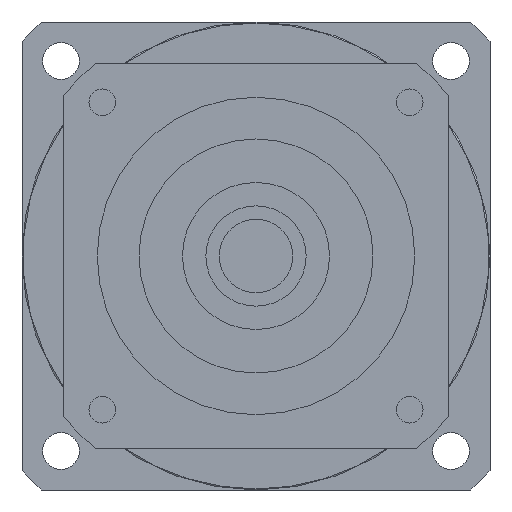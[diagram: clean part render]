
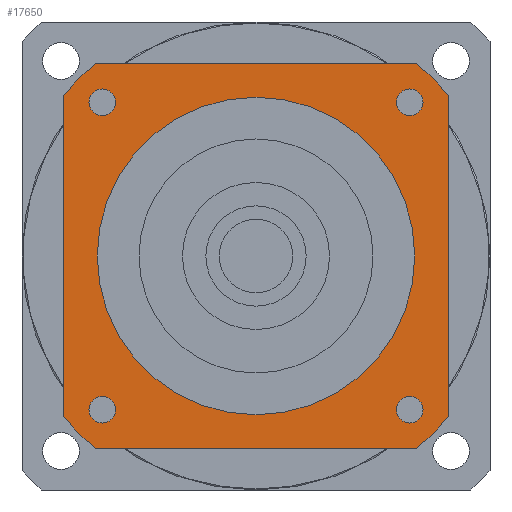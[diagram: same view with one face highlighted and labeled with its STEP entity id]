
A CAD part, left-side view. The second image highlights one B-rep face of the part: STEP entity #17650.
In plain terms, the highlighted planar face has unit normal (-1, 0, 0) as drawn and (0, 0, -1) by its records, which use the part's own axes.
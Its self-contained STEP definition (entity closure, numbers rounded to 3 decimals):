
#15370=CARTESIAN_POINT('',(57.5,48.153,-59.7));
#15380=VERTEX_POINT('',#15370);
#15410=CARTESIAN_POINT('',(57.5,57.5,-59.7));
#15420=DIRECTION('',(0.,-1.,0.));
#15430=VECTOR('',#15420,1000.);
#15440=LINE('',#15410,#15430);
#15450=CARTESIAN_POINT('',(57.5,-48.153,-59.7));
#15460=VERTEX_POINT('',#15450);
#15470=EDGE_CURVE('',#15380,#15460,#15440,.T.);
#15680=CARTESIAN_POINT('',(48.153,57.5,-59.7));
#15690=VERTEX_POINT('',#15680);
#15740=CARTESIAN_POINT('',(0.,0.,
-59.7));
#15750=DIRECTION('',(0.,0.,-1.));
#15760=DIRECTION('',(1.,0.,0.));
#15770=AXIS2_PLACEMENT_3D('',#15740,#15750,#15760);
#15780=CIRCLE('',#15770,75.);
#15790=EDGE_CURVE('',#15690,#15380,#15780,.T.);
#16030=CARTESIAN_POINT('',(48.153,-57.5,-59.7));
#16040=VERTEX_POINT('',#16030);
#16070=CARTESIAN_POINT('',(57.5,-57.5,-59.7));
#16080=DIRECTION('',(-1.,0.,0.));
#16090=VECTOR('',#16080,1000.);
#16100=LINE('',#16070,#16090);
#16110=CARTESIAN_POINT('',(-48.153,-57.5,-59.7));
#16120=VERTEX_POINT('',#16110);
#16130=EDGE_CURVE('',#16040,#16120,#16100,.T.);
#16310=CARTESIAN_POINT('',(0.,0.,
-59.7));
#16320=DIRECTION('',(0.,0.,-1.));
#16330=DIRECTION('',(1.,0.,0.));
#16340=AXIS2_PLACEMENT_3D('',#16310,#16320,#16330);
#16350=CIRCLE('',#16340,75.);
#16360=EDGE_CURVE('',#15460,#16040,#16350,.T.);
#16430=CARTESIAN_POINT('',(57.5,57.5,-59.7));
#16440=DIRECTION('',(0.,0.,-1.));
#16450=DIRECTION('',(1.,0.,0.));
#16460=AXIS2_PLACEMENT_3D('',#16430,#16440,#16450);
#16470=PLANE('',#16460);
#16480=CARTESIAN_POINT('',(-45.962,45.962,-59.7));
#16490=DIRECTION('',(0.,0.,-1.));
#16500=DIRECTION('',(-1.,0.,0.));
#16510=AXIS2_PLACEMENT_3D('',#16480,#16490,#16500);
#16520=CIRCLE('',#16510,4.);
#16530=CARTESIAN_POINT('',(-49.962,45.962,-59.7));
#16540=VERTEX_POINT('',#16530);
#16550=CARTESIAN_POINT('',(-41.962,45.962,-59.7));
#16560=VERTEX_POINT('',#16550);
#16570=EDGE_CURVE('',#16540,#16560,#16520,.T.);
#16580=ORIENTED_EDGE('',*,*,#16570,.F.);
#16590=EDGE_CURVE('',#16560,#16540,#16520,.T.);
#16600=ORIENTED_EDGE('',*,*,#16590,.F.);
#16610=EDGE_LOOP('',(#16600,#16580));
#16620=FACE_BOUND('',#16610,.T.);
#16630=CARTESIAN_POINT('',(45.962,45.962,-59.7));
#16640=DIRECTION('',(0.,0.,-1.));
#16650=DIRECTION('',(0.,1.,0.));
#16660=AXIS2_PLACEMENT_3D('',#16630,#16640,#16650);
#16670=CIRCLE('',#16660,4.);
#16680=CARTESIAN_POINT('',(45.962,49.962,-59.7));
#16690=VERTEX_POINT('',#16680);
#16700=CARTESIAN_POINT('',(45.962,41.962,-59.7));
#16710=VERTEX_POINT('',#16700);
#16720=EDGE_CURVE('',#16690,#16710,#16670,.T.);
#16730=ORIENTED_EDGE('',*,*,#16720,.F.);
#16740=EDGE_CURVE('',#16710,#16690,#16670,.T.);
#16750=ORIENTED_EDGE('',*,*,#16740,.F.);
#16760=EDGE_LOOP('',(#16750,#16730));
#16770=FACE_BOUND('',#16760,.T.);
#16780=CARTESIAN_POINT('',(0.,0.,
-59.7));
#16790=DIRECTION('',(0.,0.,1.));
#16800=DIRECTION('',(0.,1.,0.));
#16810=AXIS2_PLACEMENT_3D('',#16780,#16790,#16800);
#16820=CIRCLE('',#16810,47.5);
#16830=CARTESIAN_POINT('',(-47.5,0.,-59.7));
#16840=VERTEX_POINT('',#16830);
#16850=CARTESIAN_POINT('',(47.5,0.,-59.7));
#16860=VERTEX_POINT('',#16850);
#16870=EDGE_CURVE('',#16840,#16860,#16820,.T.);
#16880=ORIENTED_EDGE('',*,*,#16870,.T.);
#16890=CARTESIAN_POINT('',(0.,47.5,-59.7));
#16900=VERTEX_POINT('',#16890);
#16910=EDGE_CURVE('',#16900,#16840,#16820,.T.);
#16920=ORIENTED_EDGE('',*,*,#16910,.T.);
#16930=EDGE_CURVE('',#16860,#16900,#16820,.T.);
#16940=ORIENTED_EDGE('',*,*,#16930,.T.);
#16950=EDGE_LOOP('',(#16940,#16920,#16880));
#16960=FACE_BOUND('',#16950,.T.);
#16970=CARTESIAN_POINT('',(45.962,-45.962,-59.7));
#16980=DIRECTION('',(0.,0.,-1.));
#16990=DIRECTION('',(1.,0.,0.));
#17000=AXIS2_PLACEMENT_3D('',#16970,#16980,#16990);
#17010=CIRCLE('',#17000,4.);
#17020=CARTESIAN_POINT('',(49.962,-45.962,-59.7));
#17030=VERTEX_POINT('',#17020);
#17040=CARTESIAN_POINT('',(41.962,-45.962,-59.7));
#17050=VERTEX_POINT('',#17040);
#17060=EDGE_CURVE('',#17030,#17050,#17010,.T.);
#17070=ORIENTED_EDGE('',*,*,#17060,.F.);
#17080=EDGE_CURVE('',#17050,#17030,#17010,.T.);
#17090=ORIENTED_EDGE('',*,*,#17080,.F.);
#17100=EDGE_LOOP('',(#17090,#17070));
#17110=FACE_BOUND('',#17100,.T.);
#17120=CARTESIAN_POINT('',(-45.962,-45.962,-59.7));
#17130=DIRECTION('',(0.,0.,-1.));
#17140=DIRECTION('',(0.,-1.,0.));
#17150=AXIS2_PLACEMENT_3D('',#17120,#17130,#17140);
#17160=CIRCLE('',#17150,4.);
#17170=CARTESIAN_POINT('',(-45.962,-49.962,-59.7));
#17180=VERTEX_POINT('',#17170);
#17190=CARTESIAN_POINT('',(-45.962,-41.962,-59.7));
#17200=VERTEX_POINT('',#17190);
#17210=EDGE_CURVE('',#17180,#17200,#17160,.T.);
#17220=ORIENTED_EDGE('',*,*,#17210,.F.);
#17230=EDGE_CURVE('',#17200,#17180,#17160,.T.);
#17240=ORIENTED_EDGE('',*,*,#17230,.F.);
#17250=EDGE_LOOP('',(#17240,#17220));
#17260=FACE_BOUND('',#17250,.T.);
#17270=CARTESIAN_POINT('',(-57.5,57.5,-59.7));
#17280=DIRECTION('',(1.,0.,0.));
#17290=VECTOR('',#17280,1000.);
#17300=LINE('',#17270,#17290);
#17310=CARTESIAN_POINT('',(-48.153,57.5,-59.7));
#17320=VERTEX_POINT('',#17310);
#17330=EDGE_CURVE('',#17320,#15690,#17300,.T.);
#17340=ORIENTED_EDGE('',*,*,#17330,.T.);
#17350=CARTESIAN_POINT('',(0.,0.,
-59.7));
#17360=DIRECTION('',(0.,0.,-1.));
#17370=DIRECTION('',(1.,0.,0.));
#17380=AXIS2_PLACEMENT_3D('',#17350,#17360,#17370);
#17390=CIRCLE('',#17380,75.);
#17400=CARTESIAN_POINT('',(-57.5,48.153,-59.7));
#17410=VERTEX_POINT('',#17400);
#17420=EDGE_CURVE('',#17410,#17320,#17390,.T.);
#17430=ORIENTED_EDGE('',*,*,#17420,.T.);
#17440=CARTESIAN_POINT('',(-57.5,-57.5,-59.7));
#17450=DIRECTION('',(0.,1.,0.));
#17460=VECTOR('',#17450,1000.);
#17470=LINE('',#17440,#17460);
#17480=CARTESIAN_POINT('',(-57.5,-48.153,-59.7));
#17490=VERTEX_POINT('',#17480);
#17500=EDGE_CURVE('',#17490,#17410,#17470,.T.);
#17510=ORIENTED_EDGE('',*,*,#17500,.T.);
#17520=CARTESIAN_POINT('',(0.,0.,
-59.7));
#17530=DIRECTION('',(0.,0.,-1.));
#17540=DIRECTION('',(1.,0.,0.));
#17550=AXIS2_PLACEMENT_3D('',#17520,#17530,#17540);
#17560=CIRCLE('',#17550,75.);
#17570=EDGE_CURVE('',#16120,#17490,#17560,.T.);
#17580=ORIENTED_EDGE('',*,*,#17570,.T.);
#17590=ORIENTED_EDGE('',*,*,#16130,.T.);
#17600=ORIENTED_EDGE('',*,*,#16360,.T.);
#17610=ORIENTED_EDGE('',*,*,#15470,.T.);
#17620=ORIENTED_EDGE('',*,*,#15790,.T.);
#17630=EDGE_LOOP('',(#17620,#17610,#17600,#17590,#17580,#17510,#17430,
#17340));
#17640=FACE_OUTER_BOUND('',#17630,.T.);
#17650=ADVANCED_FACE('',(#16620,#16770,#16960,#17110,#17260,#17640),
#16470,.T.);
